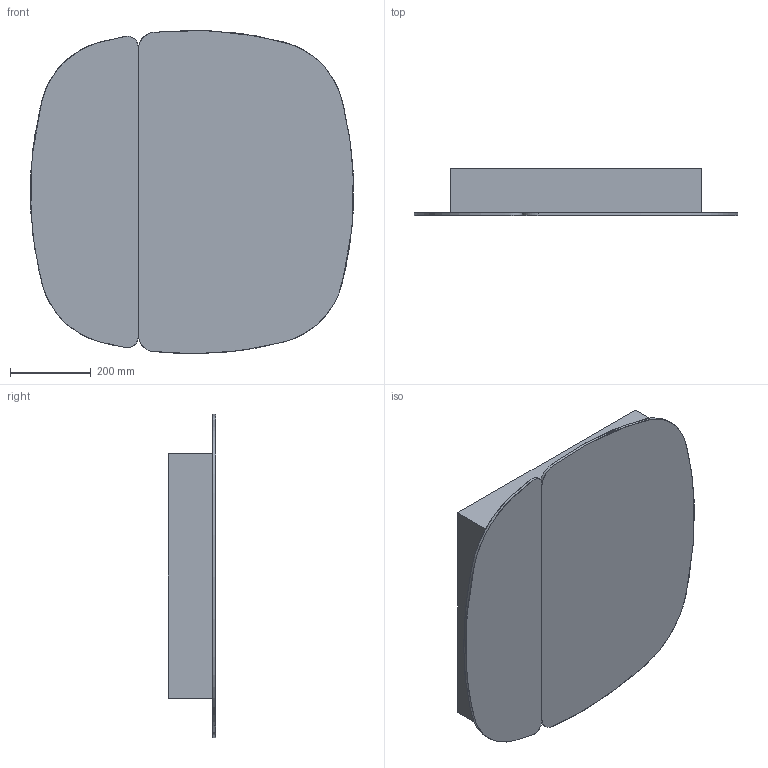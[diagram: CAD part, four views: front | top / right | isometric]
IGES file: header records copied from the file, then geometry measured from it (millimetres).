
Global section: file name: \\Archi-NAS\Comune\X GIOVANNI\SPECCHI\MIRR HIDE\MIRR HIDE_ROUND.igs; native system: Rhinoceros ( Feb 23 2021 ); preprocessor: Trout Lake IGES 012 Feb 23 2021; date: 230608.075945; units: millimetre
Bounding box: 799.87 x 117 x 800.3 mm (x, y, z)
Surface area: 2719605 mm2 (no closed solid volume)
Topology: 0 solids, 0 shells, 44 faces, 200 edges, 200 vertices
Faces by surface type: bspline 44
